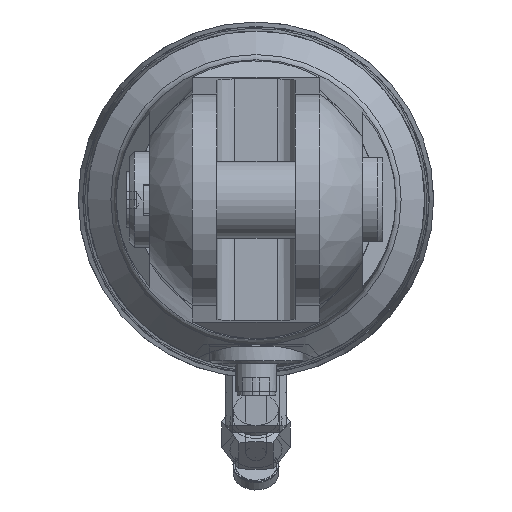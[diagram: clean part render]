
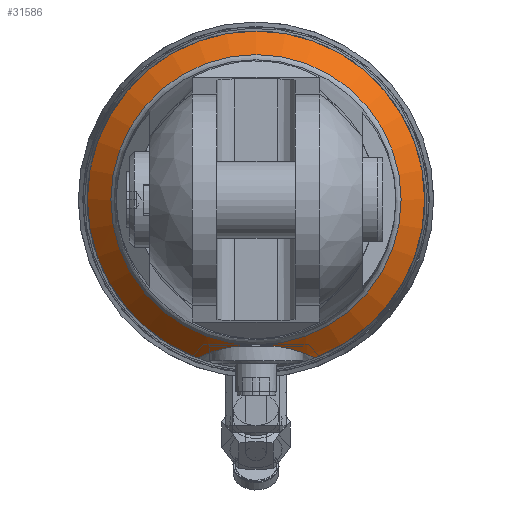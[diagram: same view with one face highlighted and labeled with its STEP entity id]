
A CAD part, left-side view. The second image highlights one B-rep face of the part: STEP entity #31586.
In plain terms, the highlighted conical face has half-angle 45.647 degrees and reference radius 45.118 mm.
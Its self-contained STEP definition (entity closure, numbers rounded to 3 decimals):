
#916=CIRCLE('',#33444,41.737);
#917=CIRCLE('',#33445,41.737);
#920=CIRCLE('',#33450,48.5);
#1212=B_SPLINE_CURVE_WITH_KNOTS('',3,(#42644,#42645,#42646,#42647,#42648,
#42649,#42650,#42651,#42652,#42653,#42654,#42655),.UNSPECIFIED.,.F.,.F.,
(4,2,2,2,2,4),(4.238,4.598,4.958,5.318,
5.679,6.053),.UNSPECIFIED.);
#1213=B_SPLINE_CURVE_WITH_KNOTS('',3,(#42658,#42659,#42660,#42661,#42662,
#42663,#42664,#42665,#42666,#42667,#42668,#42669),.UNSPECIFIED.,.F.,.F.,
(4,2,2,2,2,4),(2.423,2.798,3.158,3.518,
3.878,4.238),.UNSPECIFIED.);
#2398=CONICAL_SURFACE('',#33449,45.118,0.797);
#11093=FACE_OUTER_BOUND('',#12826,.T.);
#12826=EDGE_LOOP('',(#22751,#22752,#22753,#22754,#22755));
#14837=VERTEX_POINT('',#42132);
#14838=VERTEX_POINT('',#42134);
#14845=VERTEX_POINT('',#42643);
#14846=VERTEX_POINT('',#42656);
#17960=EDGE_CURVE('',#14838,#14837,#916,.T.);
#17961=EDGE_CURVE('',#14837,#14838,#917,.T.);
#17970=EDGE_CURVE('',#14838,#14845,#1212,.T.);
#17971=EDGE_CURVE('',#14846,#14845,#920,.T.);
#17972=EDGE_CURVE('',#14846,#14838,#1213,.T.);
#22751=ORIENTED_EDGE('',*,*,#17970,.T.);
#22752=ORIENTED_EDGE('',*,*,#17971,.F.);
#22753=ORIENTED_EDGE('',*,*,#17972,.T.);
#22754=ORIENTED_EDGE('',*,*,#17960,.T.);
#22755=ORIENTED_EDGE('',*,*,#17961,.T.);
#31586=ADVANCED_FACE('',(#11093),#2398,.T.);
#33444=AXIS2_PLACEMENT_3D('',#42135,#35362,#35363);
#33445=AXIS2_PLACEMENT_3D('',#42136,#35364,#35365);
#33449=AXIS2_PLACEMENT_3D('',#42642,#35374,#35375);
#33450=AXIS2_PLACEMENT_3D('',#42657,#35376,#35377);
#35362=DIRECTION('center_axis',(1.,0.,0.));
#35363=DIRECTION('ref_axis',(0.,0.,
1.));
#35364=DIRECTION('center_axis',(1.,0.,0.));
#35365=DIRECTION('ref_axis',(0.,0.,
1.));
#35374=DIRECTION('center_axis',(1.,0.,0.));
#35375=DIRECTION('ref_axis',(0.,0.,
1.));
#35376=DIRECTION('center_axis',(1.,0.,0.));
#35377=DIRECTION('ref_axis',(0.,0.,
1.));
#42132=CARTESIAN_POINT('',(-3004.332,41.737,0.));
#42134=CARTESIAN_POINT('',(-3004.332,0.,-41.737));
#42135=CARTESIAN_POINT('Origin',(-3004.332,0.,
0.));
#42136=CARTESIAN_POINT('Origin',(-3004.332,0.,
0.));
#42642=CARTESIAN_POINT('Origin',(-3001.026,0.,
0.));
#42643=CARTESIAN_POINT('',(-2997.72,-16.787,-45.502));
#42644=CARTESIAN_POINT('Ctrl Pts',(-3004.332,0.,
-41.737));
#42645=CARTESIAN_POINT('Ctrl Pts',(-3004.332,-1.2,
-41.737));
#42646=CARTESIAN_POINT('Ctrl Pts',(-3004.234,-2.443,-41.784));
#42647=CARTESIAN_POINT('Ctrl Pts',(-3003.822,-4.927,
-41.989));
#42648=CARTESIAN_POINT('Ctrl Pts',(-3003.509,-6.168,
-42.146));
#42649=CARTESIAN_POINT('Ctrl Pts',(-3002.699,-8.575,
-42.568));
#42650=CARTESIAN_POINT('Ctrl Pts',(-3002.202,-9.742,
-42.833));
#42651=CARTESIAN_POINT('Ctrl Pts',(-3001.089,-11.945,-43.454));
#42652=CARTESIAN_POINT('Ctrl Pts',(-3000.473,-12.98,
-43.808));
#42653=CARTESIAN_POINT('Ctrl Pts',(-2999.186,-14.916,
-44.578));
#42654=CARTESIAN_POINT('Ctrl Pts',(-2998.475,-15.869,
-45.018));
#42655=CARTESIAN_POINT('Ctrl Pts',(-2997.72,-16.787,-45.502));
#42656=CARTESIAN_POINT('',(-2997.72,16.787,-45.502));
#42657=CARTESIAN_POINT('Origin',(-2997.72,0.,0.));
#42658=CARTESIAN_POINT('Ctrl Pts',(-2997.72,16.787,-45.502));
#42659=CARTESIAN_POINT('Ctrl Pts',(-2998.475,15.869,-45.018));
#42660=CARTESIAN_POINT('Ctrl Pts',(-2999.186,14.916,-44.578));
#42661=CARTESIAN_POINT('Ctrl Pts',(-3000.473,12.98,-43.808));
#42662=CARTESIAN_POINT('Ctrl Pts',(-3001.089,11.945,-43.454));
#42663=CARTESIAN_POINT('Ctrl Pts',(-3002.202,9.742,-42.833));
#42664=CARTESIAN_POINT('Ctrl Pts',(-3002.699,8.575,-42.568));
#42665=CARTESIAN_POINT('Ctrl Pts',(-3003.509,6.168,-42.146));
#42666=CARTESIAN_POINT('Ctrl Pts',(-3003.822,4.927,-41.989));
#42667=CARTESIAN_POINT('Ctrl Pts',(-3004.234,2.443,-41.784));
#42668=CARTESIAN_POINT('Ctrl Pts',(-3004.332,1.2,-41.737));
#42669=CARTESIAN_POINT('Ctrl Pts',(-3004.332,0.,
-41.737));
